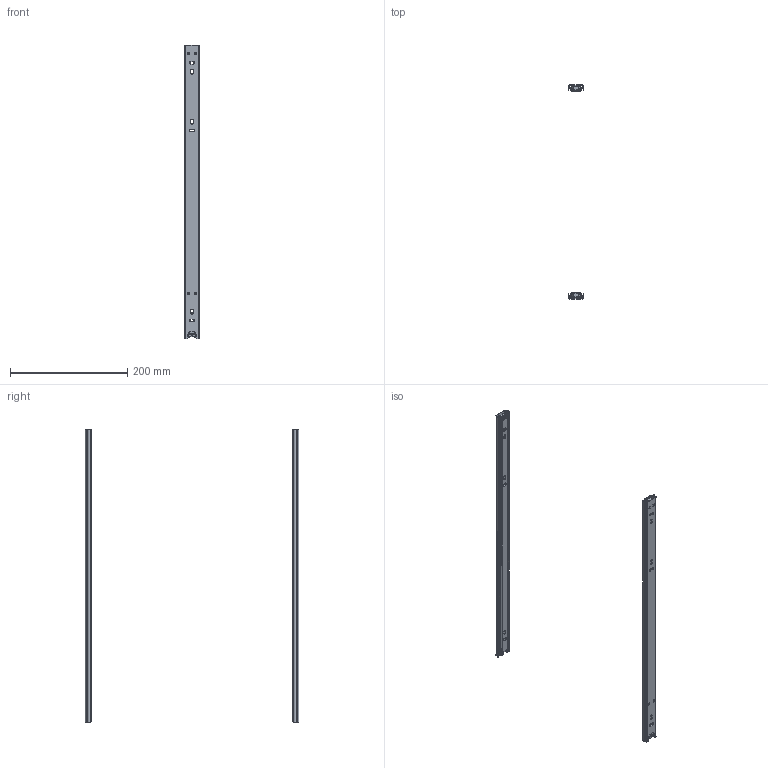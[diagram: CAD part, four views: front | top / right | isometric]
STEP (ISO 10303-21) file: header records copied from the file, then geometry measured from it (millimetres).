
FILE_DESCRIPTION(/* description */ (''),/* implementation_level */ '2;1');
FILE_NAME(/* name */ 'D:\$Workingspace\Designs\Katalog\Cadsoft\GTV Prowadnice\bry\X2\0142\X0\y\PK-0H27-5000.stp',/* time_stamp */ '2016-12-08T12:42:42+01:00',/* author */ ('tomaszw'),/* organization */ (''),/* preprocessor_version */ 'ST-DEVELOPER v16.1',/* originating_system */ 'Autodesk Inventor 2016',/* authorisation */ '');
FILE_SCHEMA (('AUTOMOTIVE_DESIGN { 1 0 10303 214 3 1 1 }'));
Length unit declared in the file: millimetre
Products named in the file (4): Blokada_1; PK-0H27_1-500; PK-0H27_2-500; PK-0H27
Assembly tree (6 placements, depth 2):
  PK-0H27
    Blokada_1  x2
    PK-0H27_1-500  x2
    PK-0H27_2-500  x2
Bounding box: 26.99 x 364 x 500 mm (x, y, z)
Volume: 65902.3 mm3; surface area: 135922.7 mm2
Topology: 6 solids, 6 shells, 318 faces, 912 edges, 604 vertices
Faces by surface type: plane 186, cylinder 132
Entity records: 5643 total; most frequent: CARTESIAN_POINT 1025, ORIENTED_EDGE 912, DIRECTION 912, EDGE_CURVE 456, LINE 318, VECTOR 318, VERTEX_POINT 302, AXIS2_PLACEMENT_3D 297
